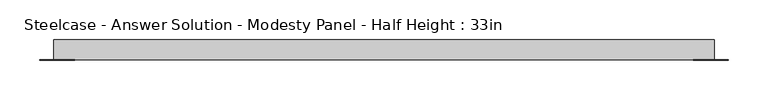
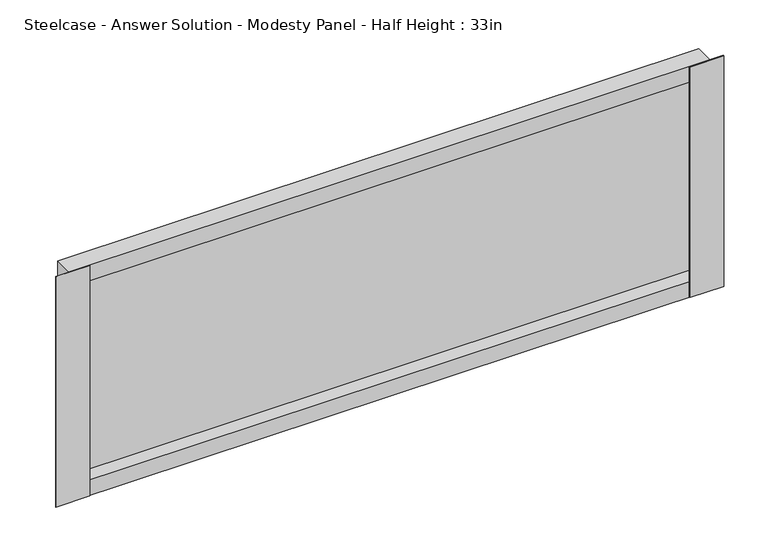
"""IFC4 building model written with IfcOpenShell, lengths in millimetres: furniture geometry, Steelcase - Answer Solution - Modesty Panel - Half Height : 33in."""

import ifcopenshell
import ifcopenshell.guid

model = None  # the IFC model being written
_history = None  # IfcOwnerHistory: only IFC2X3 demands one
_inside = {}  # id of a spatial element -> (the spatial element, [elements in it])
_under = {}  # id of a project, library or spatial element -> (it, [spatial elements below it])
_declared = {}  # id of a project -> (the project, [libraries it declares])
_typed = {}  # id of a type object -> (the type object, [elements of that type])
_made_of = {}  # id of a material, layer set ... -> (it, [elements and type objects made of it])


def new_model(schema):
    """Start an empty IFC model of exactly this schema.

    Asked for "IFC4X3", IfcOpenShell would pick the latest addendum, in which some entities
    have other attributes; the version numbers below select the first issue.
    IFC2X3 requires an IfcOwnerHistory on every rooted entity: one is made here for all.
    """
    global model, _history
    if schema == "IFC4X3":
        model = ifcopenshell.file(schema_version=(4, 3, 0, 0))
    else:
        model = ifcopenshell.file(schema=schema)
    _inside.clear()
    _under.clear()
    _declared.clear()
    _typed.clear()
    _made_of.clear()
    _history = None
    if model.schema == "IFC2X3":
        org = make("IfcOrganization", Name="unknown")
        user = make(
            "IfcPersonAndOrganization",
            ThePerson=make("IfcPerson", FamilyName="unknown"),
            TheOrganization=org,
        )
        app = make(
            "IfcApplication",
            ApplicationDeveloper=org,
            Version="unknown",
            ApplicationFullName="unknown",
            ApplicationIdentifier="unknown",
        )
        _history = make(
            "IfcOwnerHistory",
            OwningUser=user,
            OwningApplication=app,
            ChangeAction="ADDED",
            CreationDate=0,
        )
    return model


def make(cls, **values):
    """One entity of the class cls with the attributes given. An attribute that is None is left unset."""
    return model.create_entity(
        cls, **{name: value for name, value in values.items() if value is not None}
    )


def rooted(cls, **values):
    """An entity with a GlobalId (a new one), such as an element, a storey or a relation."""
    return make(cls, GlobalId=ifcopenshell.guid.new(), OwnerHistory=_history, **values)


def si_unit(unit_type, name, prefix=None):
    """IfcSIUnit, for example si_unit("LENGTHUNIT", "METRE", prefix="MILLI")."""
    return make("IfcSIUnit", UnitType=unit_type, Prefix=prefix, Name=name)


def assignment(units):
    """IfcUnitAssignment: the units of a project."""
    return None if units is None else make("IfcUnitAssignment", Units=units)


def point(xyz):
    """IfcCartesianPoint."""
    return None if xyz is None else make("IfcCartesianPoint", Coordinates=xyz)


def direction(xyz):
    """IfcDirection."""
    return None if xyz is None else make("IfcDirection", DirectionRatios=xyz)


def frame(location, z_axis=None, x_axis=None):
    """IfcAxis2Placement3D, a coordinate frame: its origin and axes. An axis left out is left unset."""
    return make(
        "IfcAxis2Placement3D",
        Location=point(location),
        Axis=direction(z_axis),
        RefDirection=direction(x_axis),
    )


def origin():
    """The frame at (0, 0, 0) with its axes left unset."""
    return frame((0.0, 0.0, 0.0))


def place(relative_to, where):
    """IfcLocalPlacement: puts the frame where relative to a parent placement (None: the world)."""
    return make(
        "IfcLocalPlacement", PlacementRelTo=relative_to, RelativePlacement=where
    )


def context(
    kind, dimensions, precision=None, world=None, true_north=None, identifier=None
):
    """IfcGeometricRepresentationContext, for example the 3D "Model" context."""
    return make(
        "IfcGeometricRepresentationContext",
        ContextIdentifier=identifier,
        ContextType=kind,
        CoordinateSpaceDimension=dimensions,
        Precision=precision,
        WorldCoordinateSystem=world,
        TrueNorth=true_north,
    )


def project(units=None, contexts=None):
    """IfcProject with its units and contexts."""
    return rooted(
        "IfcProject",
        Name="project",
        RepresentationContexts=contexts,
        UnitsInContext=assignment(units),
    )


def spatial(cls, under=None, at=None, **own):
    """A site, building, storey or space (cls), placed at a placement, below another one or the project."""
    s = rooted(cls, ObjectPlacement=at, **own)
    if under is not None:
        _under.setdefault(under.id(), (under, []))[1].append(s)
    return s


def polyline(points):
    """IfcPolyline through the points."""
    return make("IfcPolyline", Points=[point(p) for p in points])


def outline(outer, holes=None, kind="AREA"):
    """IfcArbitraryClosedProfileDef: a profile drawn as a closed curve; with holes, ...WithVoids."""
    if holes is None:
        return make("IfcArbitraryClosedProfileDef", ProfileType=kind, OuterCurve=outer)
    return make(
        "IfcArbitraryProfileDefWithVoids",
        ProfileType=kind,
        OuterCurve=outer,
        InnerCurves=holes,
    )


def extrude(swept, where, along, depth):
    """IfcExtrudedAreaSolid: the profile swept, set in the frame where, extruded along a direction by depth."""
    return make(
        "IfcExtrudedAreaSolid",
        SweptArea=swept,
        Position=where,
        ExtrudedDirection=direction(along),
        Depth=depth,
    )


def faces_of(points, faces, orient=None, outer=None):
    """IfcFace entities. A face is a list of loops; a loop is a list of indices into points, from 0.

    orient and outer hold one flag for each loop. By default every Orientation is true, the
    first loop of a face is its IfcFaceOuterBound and the others are IfcFaceBound.
    """
    made = []
    for i, loops in enumerate(faces):
        bounds = []
        for j, loop in enumerate(loops):
            is_outer = j == 0 if outer is None else outer[i][j]
            bounds.append(
                make(
                    "IfcFaceOuterBound" if is_outer else "IfcFaceBound",
                    Bound=make("IfcPolyLoop", Polygon=[points[k] for k in loop]),
                    Orientation=True if orient is None else orient[i][j],
                )
            )
        made.append(make("IfcFace", Bounds=bounds))
    return made


def faceted_brep(points, faces, orient=None, outer=None, voids=None):
    """IfcFacetedBrep: a solid bounded by flat faces; with voids (closed shells), ...WithVoids."""
    shared = [point(p) for p in points]
    hull = make("IfcClosedShell", CfsFaces=faces_of(shared, faces, orient, outer))
    if voids is None:
        return make("IfcFacetedBrep", Outer=hull)
    return make(
        "IfcFacetedBrepWithVoids",
        Outer=hull,
        Voids=[
            make(cls, CfsFaces=faces_of(shared, fs, o, b)) for cls, fs, o, b in voids
        ],
    )


def shape(context_of_items, identifier, shape_type, items):
    """IfcShapeRepresentation: the items that make up one representation, for example the "Body"."""
    return make(
        "IfcShapeRepresentation",
        ContextOfItems=context_of_items,
        RepresentationIdentifier=identifier,
        RepresentationType=shape_type,
        Items=items,
    )


def source(mapping_origin, context_of_items, identifier, shape_type, items):
    """IfcRepresentationMap: a shape defined once, which mapped items show again and again."""
    return make(
        "IfcRepresentationMap",
        MappingOrigin=mapping_origin,
        MappedRepresentation=shape(context_of_items, identifier, shape_type, items),
    )


def transform(
    local_origin,
    x_axis=None,
    y_axis=None,
    z_axis=None,
    scale=None,
    scale2=None,
    scale3=None,
    uniform=True,
):
    """IfcCartesianTransformationOperator3D, or its non-uniform kind. x_axis, y_axis, z_axis: its Axis1, 2, 3."""
    if uniform:
        return make(
            "IfcCartesianTransformationOperator3D",
            Axis1=direction(x_axis),
            Axis2=direction(y_axis),
            LocalOrigin=point(local_origin),
            Scale=scale,
            Axis3=direction(z_axis),
        )
    return make(
        "IfcCartesianTransformationOperator3DnonUniform",
        Axis1=direction(x_axis),
        Axis2=direction(y_axis),
        LocalOrigin=point(local_origin),
        Scale=scale,
        Axis3=direction(z_axis),
        Scale2=scale2,
        Scale3=scale3,
    )


def mapped(mapping_source, mapping_target):
    """IfcMappedItem: shows the shape of a source again, moved by a transform."""
    return make(
        "IfcMappedItem", MappingSource=mapping_source, MappingTarget=mapping_target
    )


def made_of(thing, what):
    """Note that an element or type object is made of a material, layer set ...; save() writes the relation."""
    if what is not None:
        _made_of.setdefault(what.id(), (what, []))[1].append(thing)
    return thing


def element(
    cls,
    number,
    at=None,
    inside=None,
    cuts=None,
    type_object=None,
    material=None,
    context=None,
    identifier="Body",
    shape_type=None,
    held_by="IfcProductDefinitionShape",
    body=None,
    shapes=None,
    **own,
):
    """One element of the class cls, such as IfcWall. Its Tag is "e" and its number.

    at: its placement. inside: the storey or other place that contains it. cuts: it is an
    opening in that element (IfcRelVoidsElement). A single representation is given by context,
    identifier, shape_type and body (its items); several are given by shapes. held_by: the class
    of the entity that holds the representations. save() writes the other relations.
    """
    e = rooted(cls, Tag="e%d" % number, ObjectPlacement=at, **own)
    if body is not None:
        shapes = [shape(context, identifier, shape_type, body)]
    if shapes is not None:
        e.Representation = make(held_by, Representations=shapes)
    if inside is not None:
        _inside.setdefault(inside.id(), (inside, []))[1].append(e)
    if cuts is not None:
        rooted(
            "IfcRelVoidsElement", RelatingBuildingElement=cuts, RelatedOpeningElement=e
        )
    if type_object is not None:
        _typed.setdefault(type_object.id(), (type_object, []))[1].append(e)
    return made_of(e, material)


def aggregate(whole, parts):
    """IfcRelAggregates: a whole, such as a stair, and the parts it consists of."""
    return rooted("IfcRelAggregates", RelatingObject=whole, RelatedObjects=parts)


def save(model, path):
    """Write the relations noted so far, then the file.

    IfcRelAggregates (storeys below a building ...), IfcRelContainedInSpatialStructure (elements
    in a storey), IfcRelDefinesByType, IfcRelAssociatesMaterial and IfcRelDeclares: one each for
    every whole, place, type object, material and project.
    """
    for whole, parts in _under.values():
        aggregate(whole, parts)
    for where, things in _inside.values():
        rooted(
            "IfcRelContainedInSpatialStructure",
            RelatedElements=things,
            RelatingStructure=where,
        )
    for kind, things in _typed.values():
        rooted("IfcRelDefinesByType", RelatedObjects=things, RelatingType=kind)
    for what, things in _made_of.values():
        rooted("IfcRelAssociatesMaterial", RelatedObjects=things, RelatingMaterial=what)
    for by, libraries in _declared.values():
        rooted("IfcRelDeclares", RelatingContext=by, RelatedDefinitions=libraries)
    model.write(path)


def steelcase_answer_solution_modesty_panel_half_height_33in_b7bac095(model_context):
    return source(origin(), model_context, "Body", "SolidModel", [
        extrude(outline(polyline([(1381.7400478, -14.2668826), (1381.7400478, -15.0593624), (1337.3248254, -15.0593624), (1337.3248254, -14.2668826), (1381.7400478, -14.2668826)])), frame((0.0, 0.0, 17.653), z_axis=(0.0, 0.0, 1.0), x_axis=(1.0, 0.0, 0.0)), (0.0, 0.0, 1.0), 317.5),
        extrude(outline(polyline([(556.9673392, -14.2668826), (556.9673392, -15.0593624), (512.5520826, -15.0593624), (512.5520826, -14.2668826), (556.9673392, -14.2668826)])), frame((0.0, 0.0, 17.653), z_axis=(0.0, 0.0, 1.0), x_axis=(1.0, 0.0, 0.0)), (0.0, 0.0, 1.0), 317.5),
        faceted_brep([(530.0780827, 10.9045177, 17.653), (530.0780827, -14.2668826, 17.653), (530.0780827, -14.2668826, 335.153), (530.0780827, 10.9045177, 335.153), (1364.2140827, -14.2668826, 17.653), (1364.2140827, 10.9045177, 17.653), (1364.2140827, 10.9045177, 335.153), (1364.2140827, -14.2668826, 335.153), (1363.4216165, 4.7831174, 39.243), (530.8705628, 4.7831174, 39.243), (530.8705628, -14.2668826, 39.243), (1363.4216165, -14.2668826, 39.243), (530.8705628, -14.2668826, 313.563), (1363.4216165, -14.2668826, 313.563), (530.8705628, 4.7831174, 313.563), (1363.4216165, 4.7831174, 313.563)], [[[0, 1, 2, 3]], [[4, 5, 6, 7]], [[8, 9, 10, 11]], [[0, 3, 6, 5]], [[4, 1, 0, 5]], [[2, 1, 4, 7], [10, 12, 13, 11]], [[3, 2, 7, 6]], [[14, 15, 13, 12]], [[9, 8, 15, 14]], [[12, 10, 9, 14]], [[11, 13, 15, 8]]]),
    ])


if __name__ == "__main__":
    model = new_model("IFC4")
    model_context = context("Model", 3, world=origin())
    ifc_project = project(units=[si_unit("LENGTHUNIT", "METRE", prefix="MILLI")], contexts=[model_context])
    site = spatial("IfcSite", under=ifc_project)
    building = spatial("IfcBuilding", under=site)
    placement = place(None, origin())
    steelcase_answer_solution_modesty_panel_half_height_33in_shape = steelcase_answer_solution_modesty_panel_half_height_33in_b7bac095(model_context)
    element("IfcFurniture", 1, ObjectType="Steelcase - Answer Solution - Modesty Panel - Half Height : 33in", at=placement, inside=building, context=model_context, shape_type="MappedRepresentation", body=[
        mapped(steelcase_answer_solution_modesty_panel_half_height_33in_shape, transform((0.0, 0.0, 0.0), x_axis=(1.0, 0.0, 0.0), y_axis=(0.0, 1.0, 0.0), z_axis=(0.0, 0.0, 1.0))),
    ])
    save(model, "model.ifc")
